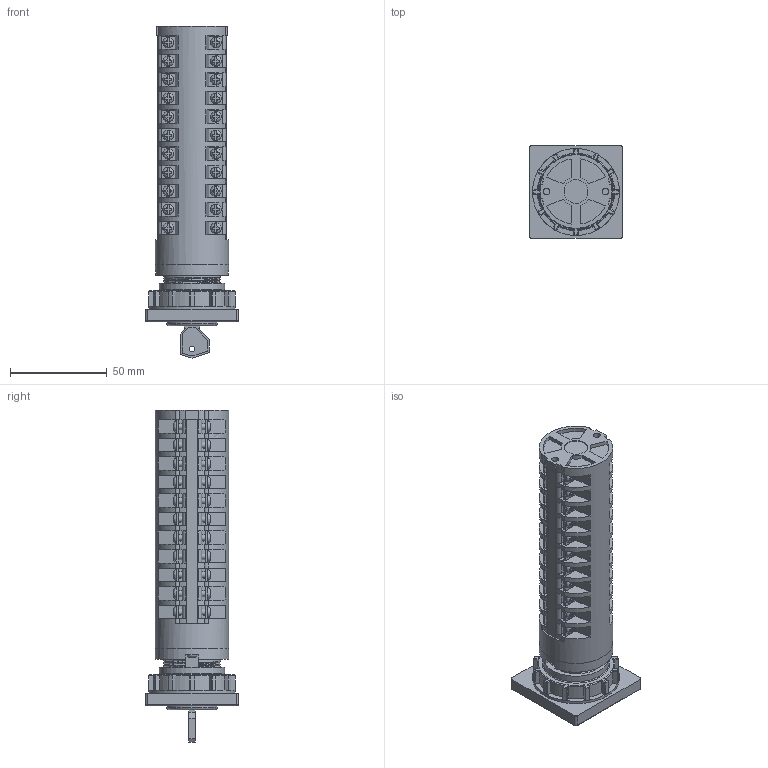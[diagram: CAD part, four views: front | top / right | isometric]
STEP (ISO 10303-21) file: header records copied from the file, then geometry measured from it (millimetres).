
FILE_DESCRIPTION(/* description */ (''),/* implementation_level */ '2;1');
FILE_NAME(/* name */ '4G10-U_wykonanie_S30_11_korpusow.stp',/* time_stamp */ '2021-07-21T09:12:08+02:00',/* author */ (''),/* organization */ (''),/* preprocessor_version */ 'ST-DEVELOPER v18.1',/* originating_system */ 'SIEMENS PLM Software NX 1965',/* authorisation */ '');
FILE_SCHEMA (('AUTOMOTIVE_DESIGN { 1 0 10303 214 3 1 1 1 }'));
Products named in the file (1): 4G10-U_wykonanie_S30_11_korpusow_stp
Bounding box: 48 x 48 x 171.82 mm (x, y, z)
Volume: 156557.4 mm3; surface area: 43286.3 mm2
Topology: 1 solids, 3 shells, 1729 faces, 4740 edges, 3098 vertices
Faces by surface type: plane 1329, cylinder 301, bspline 83, torus 16
Full cylindrical faces by diameter (mm): 3 x1, 3.2 x46, 3.3 x2, 3.4 x2, 12.3 x1, 15 x1, 26 x1, 34 x1, 38 x2, 45 x1
Entity records: 60848 total; most frequent: CARTESIAN_POINT 17962, ORIENTED_EDGE 9120, DIRECTION 8490, EDGE_CURVE 4560, VERTEX_POINT 3048, AXIS2_PLACEMENT_3D 2844, LINE 2802, VECTOR 2802
